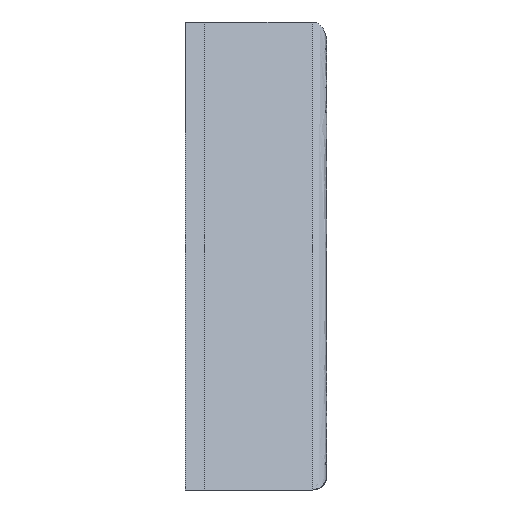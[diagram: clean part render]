
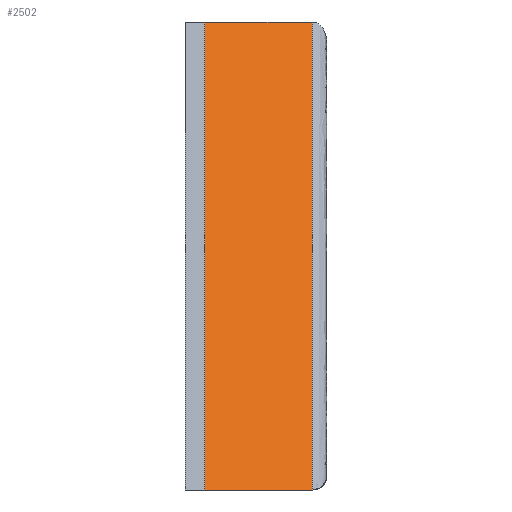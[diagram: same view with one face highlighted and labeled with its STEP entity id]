
A CAD part, left-side view. The second image highlights one B-rep face of the part: STEP entity #2502.
In plain terms, the highlighted free-form (B-spline) face has degree [1, 1] with [2, 2] control points.
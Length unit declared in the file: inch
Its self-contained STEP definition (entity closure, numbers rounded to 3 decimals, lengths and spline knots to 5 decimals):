
#2215 = CARTESIAN_POINT ('', (-11.95711, -0.25, -0.375));
#2216 = VERTEX_POINT ('', #2215);
#2389 = CARTESIAN_POINT ('', (-11.95711, 2.5, -0.375));
#2390 = VERTEX_POINT ('', #2389);
#2391 = CARTESIAN_POINT ('', (-11.95711, 2.5, -0.375));
#2392 = CARTESIAN_POINT ('', (-11.95711, -0.25, -0.375));
#2393 = B_SPLINE_CURVE_WITH_KNOTS ('', 1, (#2391, #2392), .UNSPECIFIED., .F., .U., (2, 2), (0.16954, 0.80172), .UNSPECIFIED.);
#2394 = EDGE_CURVE ('', #2390, #2216, #2393, .T.);
#2458 = CARTESIAN_POINT ('', (0., 2.5, 11.58211));
#2459 = VERTEX_POINT ('', #2458);
#2468 = CARTESIAN_POINT ('', (-11.95711, 2.5, -0.375));
#2469 = CARTESIAN_POINT ('', (0., 2.5, 11.58211));
#2470 = B_SPLINE_CURVE_WITH_KNOTS ('', 1, (#2468, #2469), .UNSPECIFIED., .F., .U., (2, 2), (0.02685, 0.87234), .UNSPECIFIED.);
#2471 = EDGE_CURVE ('', #2390, #2459, #2470, .T.);
#2481 = ORIENTED_EDGE ('', *, *, #2394, .T.);
#2482 = CARTESIAN_POINT ('', (0., -0.25, 11.58211));
#2483 = VERTEX_POINT ('', #2482);
#2484 = CARTESIAN_POINT ('', (-11.95711, -0.25, -0.375));
#2485 = CARTESIAN_POINT ('', (0., -0.25, 11.58211));
#2486 = B_SPLINE_CURVE_WITH_KNOTS ('', 1, (#2484, #2485), .UNSPECIFIED., .F., .U., (2, 2), (0.02685, 0.87234), .UNSPECIFIED.);
#2487 = EDGE_CURVE ('', #2216, #2483, #2486, .T.);
#2488 = ORIENTED_EDGE ('', *, *, #2487, .T.);
#2489 = CARTESIAN_POINT ('', (0., 2.5, 11.58211));
#2490 = CARTESIAN_POINT ('', (0., -0.25, 11.58211));
#2491 = B_SPLINE_CURVE_WITH_KNOTS ('', 1, (#2489, #2490), .UNSPECIFIED., .F., .U., (2, 2), (0.19828, 0.83046), .UNSPECIFIED.);
#2492 = EDGE_CURVE ('', #2459, #2483, #2491, .T.);
#2493 = ORIENTED_EDGE ('', *, *, #2492, .F.);
#2494 = ORIENTED_EDGE ('', *, *, #2471, .F.);
#2495 = EDGE_LOOP ('', (#2481, #2488, #2493, #2494));
#2496 = FACE_OUTER_BOUND ('', #2495, .T.);
#2497 = CARTESIAN_POINT ('', (-12.33682, -0.25, -0.75471));
#2498 = CARTESIAN_POINT ('', (-12.33682, 2.5, -0.75471));
#2499 = CARTESIAN_POINT ('', (1.80532, -0.25, 13.38743));
#2500 = CARTESIAN_POINT ('', (1.80532, 2.5, 13.38743));
#2501 = B_SPLINE_SURFACE_WITH_KNOTS ('', 1, 1, ((#2497, #2498), (#2499, #2500)), .UNSPECIFIED., .F., .F., .U., (2, 2), (2, 2), (0., 1.), (1.875, 4.625), .UNSPECIFIED.);
#2502 = ADVANCED_FACE ('', (#2496), #2501, .T.);
